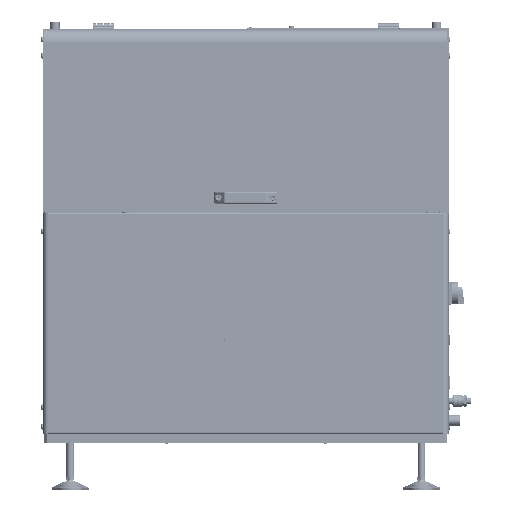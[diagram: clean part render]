
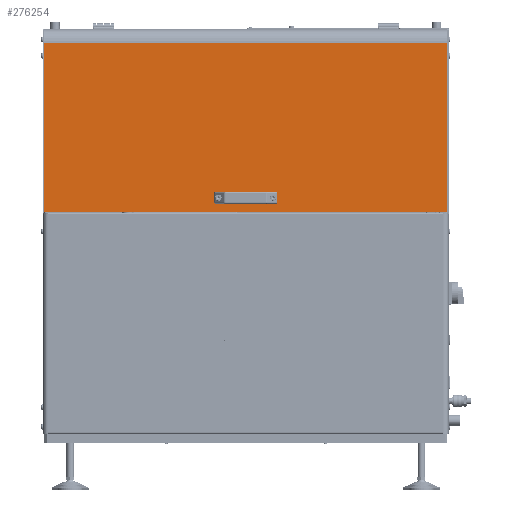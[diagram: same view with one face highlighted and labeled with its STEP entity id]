
A CAD part, left-side view. The second image highlights one B-rep face of the part: STEP entity #276254.
In plain terms, the highlighted planar face has unit normal (-1, 0, 0).
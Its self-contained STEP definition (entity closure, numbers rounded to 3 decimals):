
#12842=LINE('',#398179,#36171);
#12857=LINE('',#398261,#36186);
#12860=LINE('',#398267,#36189);
#12872=LINE('',#398305,#36201);
#12883=LINE('',#398388,#36212);
#12887=LINE('',#398410,#36216);
#12889=LINE('',#398413,#36218);
#12893=LINE('',#398421,#36222);
#12903=LINE('',#398445,#36232);
#12914=LINE('',#398468,#36243);
#12936=LINE('',#398527,#36265);
#12939=LINE('',#398532,#36268);
#36171=VECTOR('',#319239,10.);
#36186=VECTOR('',#319310,10.);
#36189=VECTOR('',#319315,10.);
#36201=VECTOR('',#319359,10.);
#36212=VECTOR('',#319424,10.);
#36216=VECTOR('',#319442,10.);
#36218=VECTOR('',#319446,10.);
#36222=VECTOR('',#319458,10.);
#36232=VECTOR('',#319478,10.);
#36243=VECTOR('',#319495,10.);
#36265=VECTOR('',#319529,10.);
#36268=VECTOR('',#319536,10.);
#59564=FACE_BOUND('',#76917,.T.);
#59565=FACE_BOUND('',#76918,.T.);
#62165=FACE_OUTER_BOUND('',#76916,.T.);
#76916=EDGE_LOOP('',(#175160,#175161,#175162,#175163));
#76917=EDGE_LOOP('',(#175164,#175165,#175166,#175167));
#76918=EDGE_LOOP('',(#175168,#175169,#175170,#175171));
#105020=VERTEX_POINT('',#398158);
#105024=VERTEX_POINT('',#398178);
#105043=VERTEX_POINT('',#398250);
#105044=VERTEX_POINT('',#398254);
#105047=VERTEX_POINT('',#398265);
#105057=VERTEX_POINT('',#398304);
#105071=VERTEX_POINT('',#398366);
#105075=VERTEX_POINT('',#398386);
#105085=VERTEX_POINT('',#398442);
#105086=VERTEX_POINT('',#398444);
#105094=VERTEX_POINT('',#398465);
#105095=VERTEX_POINT('',#398467);
#132586=EDGE_CURVE('',#105020,#105024,#12842,.T.);
#132620=EDGE_CURVE('',#105044,#105043,#12857,.T.);
#132623=EDGE_CURVE('',#105043,#105047,#12860,.T.);
#132641=EDGE_CURVE('',#105047,#105057,#12872,.T.);
#132671=EDGE_CURVE('',#105071,#105075,#12883,.T.);
#132678=EDGE_CURVE('',#105075,#105020,#12887,.T.);
#132680=EDGE_CURVE('',#105024,#105071,#12889,.T.);
#132684=EDGE_CURVE('',#105057,#105044,#12893,.T.);
#132696=EDGE_CURVE('',#105086,#105085,#12903,.T.);
#132707=EDGE_CURVE('',#105095,#105094,#12914,.T.);
#132735=EDGE_CURVE('',#105085,#105095,#12936,.T.);
#132738=EDGE_CURVE('',#105094,#105086,#12939,.T.);
#175160=ORIENTED_EDGE('',*,*,#132735,.T.);
#175161=ORIENTED_EDGE('',*,*,#132707,.T.);
#175162=ORIENTED_EDGE('',*,*,#132738,.T.);
#175163=ORIENTED_EDGE('',*,*,#132696,.T.);
#175164=ORIENTED_EDGE('',*,*,#132620,.T.);
#175165=ORIENTED_EDGE('',*,*,#132623,.T.);
#175166=ORIENTED_EDGE('',*,*,#132641,.T.);
#175167=ORIENTED_EDGE('',*,*,#132684,.T.);
#175168=ORIENTED_EDGE('',*,*,#132671,.T.);
#175169=ORIENTED_EDGE('',*,*,#132678,.T.);
#175170=ORIENTED_EDGE('',*,*,#132586,.T.);
#175171=ORIENTED_EDGE('',*,*,#132680,.T.);
#253724=PLANE('',#291700);
#276254=ADVANCED_FACE('',(#62165,#59564,#59565),#253724,.F.);
#291700=AXIS2_PLACEMENT_3D('',#398531,#319534,#319535);
#319239=DIRECTION('',(0.,-1.,0.));
#319310=DIRECTION('',(0.,-1.,0.));
#319315=DIRECTION('',(0.,0.,-1.));
#319359=DIRECTION('',(0.,1.,0.));
#319424=DIRECTION('',(0.,1.,0.));
#319442=DIRECTION('',(0.,0.,1.));
#319446=DIRECTION('',(0.,0.,-1.));
#319458=DIRECTION('',(0.,0.,1.));
#319478=DIRECTION('',(0.,0.,1.));
#319495=DIRECTION('',(0.,0.,-1.));
#319529=DIRECTION('',(0.,1.,0.));
#319534=DIRECTION('center_axis',(1.,0.,0.));
#319535=DIRECTION('ref_axis',(0.,-1.,0.));
#319536=DIRECTION('',(0.,-1.,0.));
#398158=CARTESIAN_POINT('',(-472.057,-825.584,604.518));
#398178=CARTESIAN_POINT('',(-472.057,-845.084,604.518));
#398179=CARTESIAN_POINT('',(-472.057,-859.089,604.518));
#398250=CARTESIAN_POINT('',(-472.057,-959.584,604.518));
#398254=CARTESIAN_POINT('',(-472.057,-940.084,604.518));
#398261=CARTESIAN_POINT('',(-472.057,-916.339,604.518));
#398265=CARTESIAN_POINT('',(-472.057,-959.584,584.518));
#398267=CARTESIAN_POINT('',(-472.057,-959.584,734.85));
#398304=CARTESIAN_POINT('',(-472.057,-940.084,584.518));
#398305=CARTESIAN_POINT('',(-472.057,-916.339,584.518));
#398366=CARTESIAN_POINT('',(-472.057,-845.084,584.518));
#398386=CARTESIAN_POINT('',(-472.057,-825.584,584.518));
#398388=CARTESIAN_POINT('',(-472.057,-859.089,584.518));
#398410=CARTESIAN_POINT('',(-472.057,-825.584,734.85));
#398413=CARTESIAN_POINT('',(-472.057,-845.084,734.85));
#398421=CARTESIAN_POINT('',(-472.057,-940.084,734.85));
#398442=CARTESIAN_POINT('',(-472.057,-1323.084,924.518));
#398444=CARTESIAN_POINT('',(-472.057,-1323.084,564.518));
#398445=CARTESIAN_POINT('',(-472.057,-1323.084,924.518));
#398465=CARTESIAN_POINT('',(-472.057,-462.084,564.518));
#398467=CARTESIAN_POINT('',(-472.057,-462.084,924.518));
#398468=CARTESIAN_POINT('',(-472.057,-462.084,829.518));
#398527=CARTESIAN_POINT('',(-472.057,-892.584,924.518));
#398531=CARTESIAN_POINT('Origin',(-472.057,-892.584,875.182));
#398532=CARTESIAN_POINT('',(-472.057,-1313.084,564.518));
